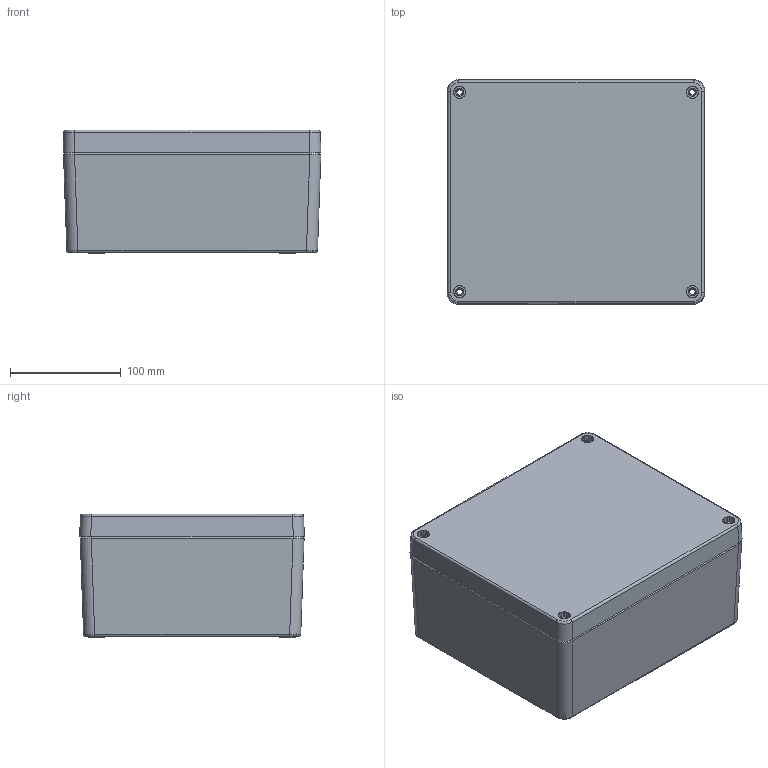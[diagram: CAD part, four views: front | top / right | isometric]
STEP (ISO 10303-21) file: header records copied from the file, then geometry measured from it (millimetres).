
FILE_DESCRIPTION (( 'STEP AP203' ), '1' );
FILE_NAME ('ALU ASSY 200230110.STEP', '2024-08-27T09:23:26', ( '' ), ( '' ), 'SwSTEP 2.0', 'SolidWorks 2018', '' );
FILE_SCHEMA (( 'CONFIG_CONTROL_DESIGN' ));
Length unit declared in the file: millimetre
Products named in the file (3): ALU LID 200230110; ALU ASSY 200230110; ALU BASE 200230110
Assembly tree (2 placements, depth 2):
  ALU ASSY 200230110
    ALU BASE 200230110
    ALU LID 200230110
Bounding box: 232.65 x 202.7 x 111.52 mm (x, y, z)
Volume: 954923.4 mm3; surface area: 388187.4 mm2
Topology: 2 solids, 2 shells, 2236 faces, 6238 edges, 4091 vertices
Faces by surface type: plane 1035, bspline 904, cylinder 269, cone 28
Entity records: 100967 total; most frequent: CARTESIAN_POINT 50764, ORIENTED_EDGE 12416, DIRECTION 6850, EDGE_CURVE 6208, VERTEX_POINT 4091, LINE 3424, VECTOR 3424, EDGE_LOOP 2375
